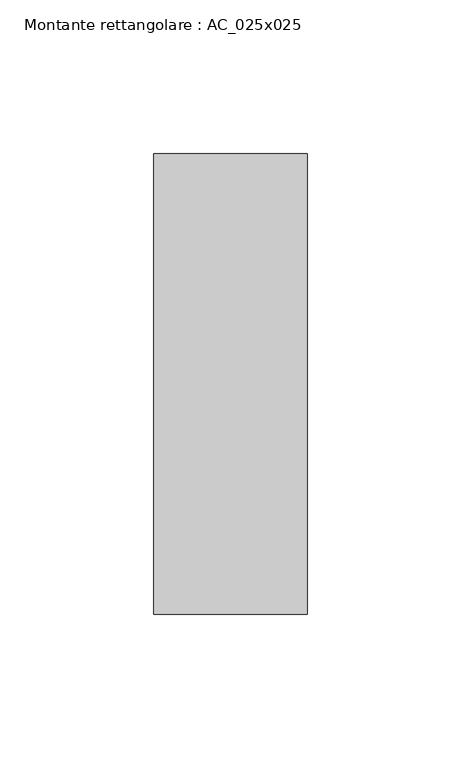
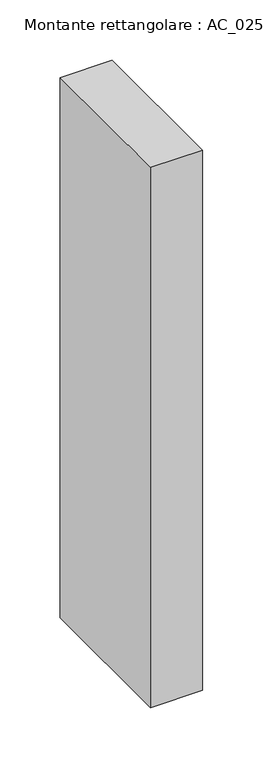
"""IFC4 building model written with IfcOpenShell, lengths in millimetres: member geometry, Montante rettangolare : AC_025x025."""

import ifcopenshell
import ifcopenshell.guid

model = None  # the IFC model being written
_history = None  # IfcOwnerHistory: only IFC2X3 demands one
_inside = {}  # id of a spatial element -> (the spatial element, [elements in it])
_under = {}  # id of a project, library or spatial element -> (it, [spatial elements below it])
_declared = {}  # id of a project -> (the project, [libraries it declares])
_typed = {}  # id of a type object -> (the type object, [elements of that type])
_made_of = {}  # id of a material, layer set ... -> (it, [elements and type objects made of it])


def new_model(schema):
    """Start an empty IFC model of exactly this schema.

    Asked for "IFC4X3", IfcOpenShell would pick the latest addendum, in which some entities
    have other attributes; the version numbers below select the first issue.
    IFC2X3 requires an IfcOwnerHistory on every rooted entity: one is made here for all.
    """
    global model, _history
    if schema == "IFC4X3":
        model = ifcopenshell.file(schema_version=(4, 3, 0, 0))
    else:
        model = ifcopenshell.file(schema=schema)
    _inside.clear()
    _under.clear()
    _declared.clear()
    _typed.clear()
    _made_of.clear()
    _history = None
    if model.schema == "IFC2X3":
        org = make("IfcOrganization", Name="unknown")
        user = make(
            "IfcPersonAndOrganization",
            ThePerson=make("IfcPerson", FamilyName="unknown"),
            TheOrganization=org,
        )
        app = make(
            "IfcApplication",
            ApplicationDeveloper=org,
            Version="unknown",
            ApplicationFullName="unknown",
            ApplicationIdentifier="unknown",
        )
        _history = make(
            "IfcOwnerHistory",
            OwningUser=user,
            OwningApplication=app,
            ChangeAction="ADDED",
            CreationDate=0,
        )
    return model


def make(cls, **values):
    """One entity of the class cls with the attributes given. An attribute that is None is left unset."""
    return model.create_entity(
        cls, **{name: value for name, value in values.items() if value is not None}
    )


def rooted(cls, **values):
    """An entity with a GlobalId (a new one), such as an element, a storey or a relation."""
    return make(cls, GlobalId=ifcopenshell.guid.new(), OwnerHistory=_history, **values)


def si_unit(unit_type, name, prefix=None):
    """IfcSIUnit, for example si_unit("LENGTHUNIT", "METRE", prefix="MILLI")."""
    return make("IfcSIUnit", UnitType=unit_type, Prefix=prefix, Name=name)


def assignment(units):
    """IfcUnitAssignment: the units of a project."""
    return None if units is None else make("IfcUnitAssignment", Units=units)


def point(xyz):
    """IfcCartesianPoint."""
    return None if xyz is None else make("IfcCartesianPoint", Coordinates=xyz)


def direction(xyz):
    """IfcDirection."""
    return None if xyz is None else make("IfcDirection", DirectionRatios=xyz)


def frame(location, z_axis=None, x_axis=None):
    """IfcAxis2Placement3D, a coordinate frame: its origin and axes. An axis left out is left unset."""
    return make(
        "IfcAxis2Placement3D",
        Location=point(location),
        Axis=direction(z_axis),
        RefDirection=direction(x_axis),
    )


def origin():
    """The frame at (0, 0, 0) with its axes left unset."""
    return frame((0.0, 0.0, 0.0))


def place(relative_to, where):
    """IfcLocalPlacement: puts the frame where relative to a parent placement (None: the world)."""
    return make(
        "IfcLocalPlacement", PlacementRelTo=relative_to, RelativePlacement=where
    )


def context(
    kind, dimensions, precision=None, world=None, true_north=None, identifier=None
):
    """IfcGeometricRepresentationContext, for example the 3D "Model" context."""
    return make(
        "IfcGeometricRepresentationContext",
        ContextIdentifier=identifier,
        ContextType=kind,
        CoordinateSpaceDimension=dimensions,
        Precision=precision,
        WorldCoordinateSystem=world,
        TrueNorth=true_north,
    )


def project(units=None, contexts=None):
    """IfcProject with its units and contexts."""
    return rooted(
        "IfcProject",
        Name="project",
        RepresentationContexts=contexts,
        UnitsInContext=assignment(units),
    )


def spatial(cls, under=None, at=None, **own):
    """A site, building, storey or space (cls), placed at a placement, below another one or the project."""
    s = rooted(cls, ObjectPlacement=at, **own)
    if under is not None:
        _under.setdefault(under.id(), (under, []))[1].append(s)
    return s


def polyline(points):
    """IfcPolyline through the points."""
    return make("IfcPolyline", Points=[point(p) for p in points])


def outline(outer, holes=None, kind="AREA"):
    """IfcArbitraryClosedProfileDef: a profile drawn as a closed curve; with holes, ...WithVoids."""
    if holes is None:
        return make("IfcArbitraryClosedProfileDef", ProfileType=kind, OuterCurve=outer)
    return make(
        "IfcArbitraryProfileDefWithVoids",
        ProfileType=kind,
        OuterCurve=outer,
        InnerCurves=holes,
    )


def extrude(swept, where, along, depth):
    """IfcExtrudedAreaSolid: the profile swept, set in the frame where, extruded along a direction by depth."""
    return make(
        "IfcExtrudedAreaSolid",
        SweptArea=swept,
        Position=where,
        ExtrudedDirection=direction(along),
        Depth=depth,
    )


def shape(context_of_items, identifier, shape_type, items):
    """IfcShapeRepresentation: the items that make up one representation, for example the "Body"."""
    return make(
        "IfcShapeRepresentation",
        ContextOfItems=context_of_items,
        RepresentationIdentifier=identifier,
        RepresentationType=shape_type,
        Items=items,
    )


def source(mapping_origin, context_of_items, identifier, shape_type, items):
    """IfcRepresentationMap: a shape defined once, which mapped items show again and again."""
    return make(
        "IfcRepresentationMap",
        MappingOrigin=mapping_origin,
        MappedRepresentation=shape(context_of_items, identifier, shape_type, items),
    )


def transform(
    local_origin,
    x_axis=None,
    y_axis=None,
    z_axis=None,
    scale=None,
    scale2=None,
    scale3=None,
    uniform=True,
):
    """IfcCartesianTransformationOperator3D, or its non-uniform kind. x_axis, y_axis, z_axis: its Axis1, 2, 3."""
    if uniform:
        return make(
            "IfcCartesianTransformationOperator3D",
            Axis1=direction(x_axis),
            Axis2=direction(y_axis),
            LocalOrigin=point(local_origin),
            Scale=scale,
            Axis3=direction(z_axis),
        )
    return make(
        "IfcCartesianTransformationOperator3DnonUniform",
        Axis1=direction(x_axis),
        Axis2=direction(y_axis),
        LocalOrigin=point(local_origin),
        Scale=scale,
        Axis3=direction(z_axis),
        Scale2=scale2,
        Scale3=scale3,
    )


def mapped(mapping_source, mapping_target):
    """IfcMappedItem: shows the shape of a source again, moved by a transform."""
    return make(
        "IfcMappedItem", MappingSource=mapping_source, MappingTarget=mapping_target
    )


def made_of(thing, what):
    """Note that an element or type object is made of a material, layer set ...; save() writes the relation."""
    if what is not None:
        _made_of.setdefault(what.id(), (what, []))[1].append(thing)
    return thing


def element(
    cls,
    number,
    at=None,
    inside=None,
    cuts=None,
    type_object=None,
    material=None,
    context=None,
    identifier="Body",
    shape_type=None,
    held_by="IfcProductDefinitionShape",
    body=None,
    shapes=None,
    **own,
):
    """One element of the class cls, such as IfcWall. Its Tag is "e" and its number.

    at: its placement. inside: the storey or other place that contains it. cuts: it is an
    opening in that element (IfcRelVoidsElement). A single representation is given by context,
    identifier, shape_type and body (its items); several are given by shapes. held_by: the class
    of the entity that holds the representations. save() writes the other relations.
    """
    e = rooted(cls, Tag="e%d" % number, ObjectPlacement=at, **own)
    if body is not None:
        shapes = [shape(context, identifier, shape_type, body)]
    if shapes is not None:
        e.Representation = make(held_by, Representations=shapes)
    if inside is not None:
        _inside.setdefault(inside.id(), (inside, []))[1].append(e)
    if cuts is not None:
        rooted(
            "IfcRelVoidsElement", RelatingBuildingElement=cuts, RelatedOpeningElement=e
        )
    if type_object is not None:
        _typed.setdefault(type_object.id(), (type_object, []))[1].append(e)
    return made_of(e, material)


def aggregate(whole, parts):
    """IfcRelAggregates: a whole, such as a stair, and the parts it consists of."""
    return rooted("IfcRelAggregates", RelatingObject=whole, RelatedObjects=parts)


def save(model, path):
    """Write the relations noted so far, then the file.

    IfcRelAggregates (storeys below a building ...), IfcRelContainedInSpatialStructure (elements
    in a storey), IfcRelDefinesByType, IfcRelAssociatesMaterial and IfcRelDeclares: one each for
    every whole, place, type object, material and project.
    """
    for whole, parts in _under.values():
        aggregate(whole, parts)
    for where, things in _inside.values():
        rooted(
            "IfcRelContainedInSpatialStructure",
            RelatedElements=things,
            RelatingStructure=where,
        )
    for kind, things in _typed.values():
        rooted("IfcRelDefinesByType", RelatedObjects=things, RelatingType=kind)
    for what, things in _made_of.values():
        rooted("IfcRelAssociatesMaterial", RelatedObjects=things, RelatingMaterial=what)
    for by, libraries in _declared.values():
        rooted("IfcRelDeclares", RelatingContext=by, RelatedDefinitions=libraries)
    model.write(path)


def montante_rettangolare_ac_025x025_8a5c9500(model_context):
    return source(origin(), model_context, "Body", "SweptSolid", [
        extrude(outline(polyline([(0.0, 75.0), (0.0, -75.0), (-50.0, -75.0), (-50.0, 75.0), (0.0, 75.0)])), frame((0.0, 0.0, -547.0574047), z_axis=(0.0, 0.0, 1.0), x_axis=(1.0, 0.0, 0.0)), (0.0, 0.0, 1.0), 547.0574047),
    ])


if __name__ == "__main__":
    model = new_model("IFC4")
    model_context = context("Model", 3, world=origin())
    ifc_project = project(units=[si_unit("LENGTHUNIT", "METRE", prefix="MILLI")], contexts=[model_context])
    site = spatial("IfcSite", under=ifc_project)
    building = spatial("IfcBuilding", under=site)
    placement = place(None, origin())
    montante_rettangolare_ac_025x025_shape = montante_rettangolare_ac_025x025_8a5c9500(model_context)
    element("IfcMember", 1, ObjectType="Montante rettangolare : AC_025x025", at=placement, inside=building, context=model_context, shape_type="MappedRepresentation", body=[
        mapped(montante_rettangolare_ac_025x025_shape, transform((0.0, 0.0, 0.0), x_axis=(1.0, 0.0, 0.0), y_axis=(0.0, 1.0, 0.0), z_axis=(0.0, 0.0, 1.0))),
    ])
    save(model, "model.ifc")
